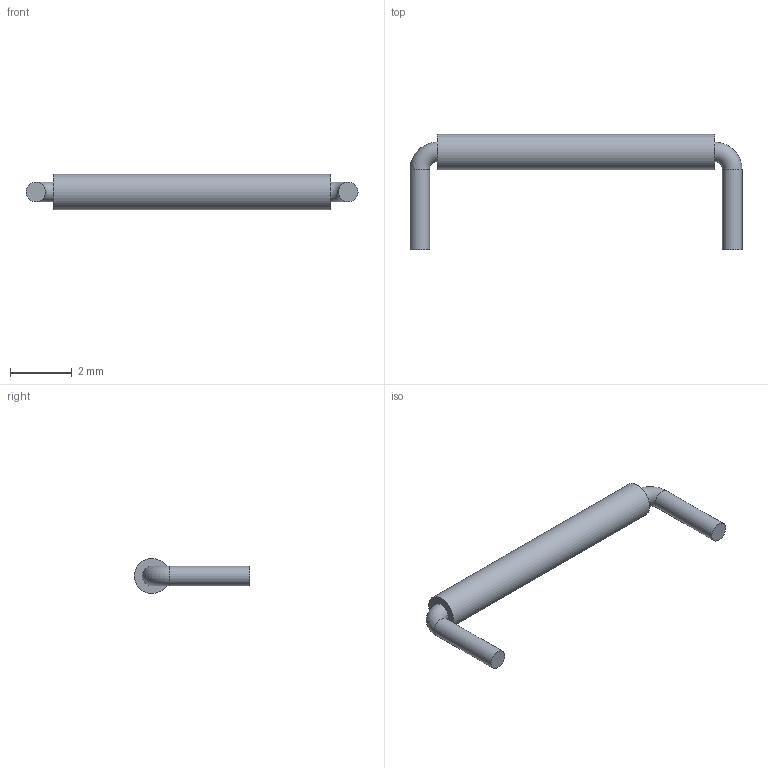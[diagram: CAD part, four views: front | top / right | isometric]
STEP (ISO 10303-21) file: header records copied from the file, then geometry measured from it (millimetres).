
FILE_DESCRIPTION(/* description */ ('STEP AP214'),/* implementation_level */ '2;1');
FILE_NAME(/* name */ 'JL-400-25-T',/* time_stamp */ '2024-03-16T13:04:01+01:00',/* author */ ('License CC BY-ND 4.0'),/* organization */ ('CADENAS'),/* preprocessor_version */ 'ST-DEVELOPER v19.3',/* originating_system */ 'PARTsolutions',/* authorisation */ ' ');
FILE_SCHEMA (('AUTOMOTIVE_DESIGN {1 0 10303 214 3 1 1}'));
Length unit declared in the file: inch
Products named in the file (1): JL-400-25-T
Bounding box: 10.79 x 3.75 x 1.14 mm (x, y, z)
Volume: 11.5 mm3; surface area: 48.4 mm2
Topology: 1 solids, 1 shells, 9 faces, 15 edges, 10 vertices
Faces by surface type: plane 4, cylinder 3, torus 2
Full cylindrical faces by diameter (mm): 0.635 x2, 1.143 x1
Entity records: 206 total; most frequent: DIRECTION 36, CARTESIAN_POINT 26, AXIS2_PLACEMENT_3D 18, ORIENTED_EDGE 16, EDGE_LOOP 16, FACE_BOUND 16, ADVANCED_FACE 9, EDGE_CURVE 8
